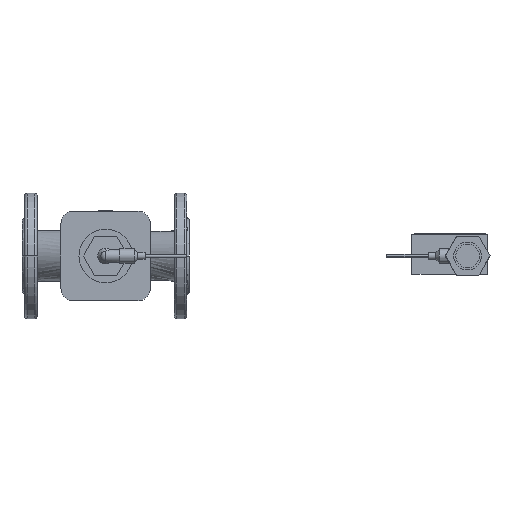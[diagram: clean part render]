
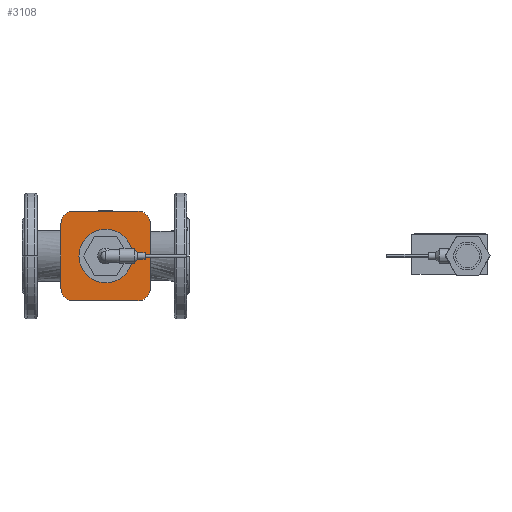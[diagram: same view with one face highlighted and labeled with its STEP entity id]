
A CAD part, front view. The second image highlights one B-rep face of the part: STEP entity #3108.
In plain terms, the highlighted planar face has unit normal (0, -1, 0).
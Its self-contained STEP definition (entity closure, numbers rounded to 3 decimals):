
#3065 = VERTEX_POINT ( 'NONE', #7558 ) ;
#3067 = EDGE_CURVE ( 'NONE', #3235, #3095, #7557, .T. ) ;
#3095 = VERTEX_POINT ( 'NONE', #7607 ) ;
#3106 = EDGE_CURVE ( 'NONE', #3186, #3250, #7221, .T. ) ;
#3108 = ADVANCED_FACE ( 'NONE', ( #7709, #7708 ), #7707, .T. ) ;
#3109 = EDGE_LOOP ( 'NONE', ( #3110, #3111, #3112, #3113, #3114, #3115, #3116, #3159 ) ) ;
#3110 = ORIENTED_EDGE ( 'NONE', *, *, #3106, .F. ) ;
#3111 = ORIENTED_EDGE ( 'NONE', *, *, #3185, .F. ) ;
#3112 = ORIENTED_EDGE ( 'NONE', *, *, #3067, .F. ) ;
#3113 = ORIENTED_EDGE ( 'NONE', *, *, #3208, .F. ) ;
#3114 = ORIENTED_EDGE ( 'NONE', *, *, #3255, .F. ) ;
#3115 = ORIENTED_EDGE ( 'NONE', *, *, #3489, .F. ) ;
#3116 = ORIENTED_EDGE ( 'NONE', *, *, #3182, .F. ) ;
#3159 = ORIENTED_EDGE ( 'NONE', *, *, #3253, .F. ) ;
#3160 = EDGE_LOOP ( 'NONE', ( #3161, #3162 ) ) ;
#3161 = ORIENTED_EDGE ( 'NONE', *, *, #3262, .F. ) ;
#3162 = ORIENTED_EDGE ( 'NONE', *, *, #3163, .F. ) ;
#3163 = EDGE_CURVE ( 'NONE', #3264, #3263, #7798, .T. ) ;
#3182 = EDGE_CURVE ( 'NONE', #3254, #3231, #7710, .T. ) ;
#3185 = EDGE_CURVE ( 'NONE', #3095, #3186, #7922, .T. ) ;
#3186 = VERTEX_POINT ( 'NONE', #7917 ) ;
#3205 = VERTEX_POINT ( 'NONE', #8028 ) ;
#3208 = EDGE_CURVE ( 'NONE', #3205, #3235, #8072, .T. ) ;
#3231 = VERTEX_POINT ( 'NONE', #8022 ) ;
#3235 = VERTEX_POINT ( 'NONE', #8063 ) ;
#3250 = VERTEX_POINT ( 'NONE', #8085 ) ;
#3253 = EDGE_CURVE ( 'NONE', #3250, #3254, #8083, .T. ) ;
#3254 = VERTEX_POINT ( 'NONE', #8078 ) ;
#3255 = EDGE_CURVE ( 'NONE', #3065, #3205, #8077, .T. ) ;
#3262 = EDGE_CURVE ( 'NONE', #3263, #3264, #8186, .T. ) ;
#3263 = VERTEX_POINT ( 'NONE', #8182 ) ;
#3264 = VERTEX_POINT ( 'NONE', #8181 ) ;
#3489 = EDGE_CURVE ( 'NONE', #3231, #3065, #8685, .T. ) ;
#7215 = DIRECTION ( 'NONE',  ( 0., 0., 1. ) ) ;
#7216 = VECTOR ( 'NONE', #7215, 1000. ) ;
#7217 = CARTESIAN_POINT ( 'NONE',  ( -53.5, -165., -38.5 ) ) ;
#7221 = LINE ( 'NONE', #7217, #7216 ) ;
#7554 = DIRECTION ( 'NONE',  ( -1., 0., 0. ) ) ;
#7555 = VECTOR ( 'NONE', #7554, 1000. ) ;
#7556 = CARTESIAN_POINT ( 'NONE',  ( 38.5, -165., -53.5 ) ) ;
#7557 = LINE ( 'NONE', #7556, #7555 ) ;
#7558 = CARTESIAN_POINT ( 'NONE',  ( 53.5, -165., 38.5 ) ) ;
#7607 = CARTESIAN_POINT ( 'NONE',  ( -38.5, -165., -53.5 ) ) ;
#7703 = DIRECTION ( 'NONE',  ( 0., 0., -1. ) ) ;
#7704 = DIRECTION ( 'NONE',  ( 0., -1., 0. ) ) ;
#7705 = CARTESIAN_POINT ( 'NONE',  ( 32., -165., 0. ) ) ;
#7706 = AXIS2_PLACEMENT_3D ( 'NONE', #7705, #7704, #7703 ) ;
#7707 = PLANE ( 'NONE',  #7706 ) ;
#7708 = FACE_BOUND ( 'NONE', #3160, .T. ) ;
#7709 = FACE_OUTER_BOUND ( 'NONE', #3109, .T. ) ;
#7710 = LINE ( 'NONE', #7931, #7930 ) ;
#7795 = DIRECTION ( 'NONE',  ( 0., 0., -1. ) ) ;
#7796 = DIRECTION ( 'NONE',  ( 0., -1., 0. ) ) ;
#7797 = AXIS2_PLACEMENT_3D ( 'NONE', #7802, #7796, #7795 ) ;
#7798 = CIRCLE ( 'NONE', #7797, 32. ) ;
#7802 = CARTESIAN_POINT ( 'NONE',  ( 0., -165., 0. ) ) ;
#7917 = CARTESIAN_POINT ( 'NONE',  ( -53.5, -165., -38.5 ) ) ;
#7918 = DIRECTION ( 'NONE',  ( 0., 0., -1. ) ) ;
#7919 = DIRECTION ( 'NONE',  ( 0., 1., 0. ) ) ;
#7920 = CARTESIAN_POINT ( 'NONE',  ( -38.5, -165., -38.5 ) ) ;
#7921 = AXIS2_PLACEMENT_3D ( 'NONE', #7920, #7919, #7918 ) ;
#7922 = CIRCLE ( 'NONE', #7921, 15. ) ;
#7929 = DIRECTION ( 'NONE',  ( 1., 0., 0. ) ) ;
#7930 = VECTOR ( 'NONE', #7929, 1000. ) ;
#7931 = CARTESIAN_POINT ( 'NONE',  ( 38.5, -165., 53.5 ) ) ;
#8022 = CARTESIAN_POINT ( 'NONE',  ( 38.5, -165., 53.5 ) ) ;
#8028 = CARTESIAN_POINT ( 'NONE',  ( 53.5, -165., -38.5 ) ) ;
#8063 = CARTESIAN_POINT ( 'NONE',  ( 38.5, -165., -53.5 ) ) ;
#8068 = DIRECTION ( 'NONE',  ( 0., 0., -1. ) ) ;
#8069 = DIRECTION ( 'NONE',  ( 0., 1., 0. ) ) ;
#8070 = CARTESIAN_POINT ( 'NONE',  ( 38.5, -165., -38.5 ) ) ;
#8071 = AXIS2_PLACEMENT_3D ( 'NONE', #8070, #8069, #8068 ) ;
#8072 = CIRCLE ( 'NONE', #8071, 15. ) ;
#8074 = DIRECTION ( 'NONE',  ( 0., 0., -1. ) ) ;
#8075 = VECTOR ( 'NONE', #8074, 1000. ) ;
#8076 = CARTESIAN_POINT ( 'NONE',  ( 53.5, -165., -38.5 ) ) ;
#8077 = LINE ( 'NONE', #8076, #8075 ) ;
#8078 = CARTESIAN_POINT ( 'NONE',  ( -38.5, -165., 53.5 ) ) ;
#8079 = DIRECTION ( 'NONE',  ( 0., 0., -1. ) ) ;
#8080 = DIRECTION ( 'NONE',  ( 0., 1., 0. ) ) ;
#8081 = CARTESIAN_POINT ( 'NONE',  ( -38.5, -165., 38.5 ) ) ;
#8082 = AXIS2_PLACEMENT_3D ( 'NONE', #8081, #8080, #8079 ) ;
#8083 = CIRCLE ( 'NONE', #8082, 15. ) ;
#8085 = CARTESIAN_POINT ( 'NONE',  ( -53.5, -165., 38.5 ) ) ;
#8122 = CARTESIAN_POINT ( 'NONE',  ( 0., -165., 0. ) ) ;
#8181 = CARTESIAN_POINT ( 'NONE',  ( 0., -165., 32. ) ) ;
#8182 = CARTESIAN_POINT ( 'NONE',  ( 0., -165., -32. ) ) ;
#8183 = DIRECTION ( 'NONE',  ( 0., 0., -1. ) ) ;
#8184 = DIRECTION ( 'NONE',  ( 0., -1., 0. ) ) ;
#8185 = AXIS2_PLACEMENT_3D ( 'NONE', #8122, #8184, #8183 ) ;
#8186 = CIRCLE ( 'NONE', #8185, 32. ) ;
#8681 = DIRECTION ( 'NONE',  ( 0., 0., -1. ) ) ;
#8682 = DIRECTION ( 'NONE',  ( 0., 1., 0. ) ) ;
#8683 = CARTESIAN_POINT ( 'NONE',  ( 38.5, -165., 38.5 ) ) ;
#8684 = AXIS2_PLACEMENT_3D ( 'NONE', #8683, #8682, #8681 ) ;
#8685 = CIRCLE ( 'NONE', #8684, 15. ) ;
